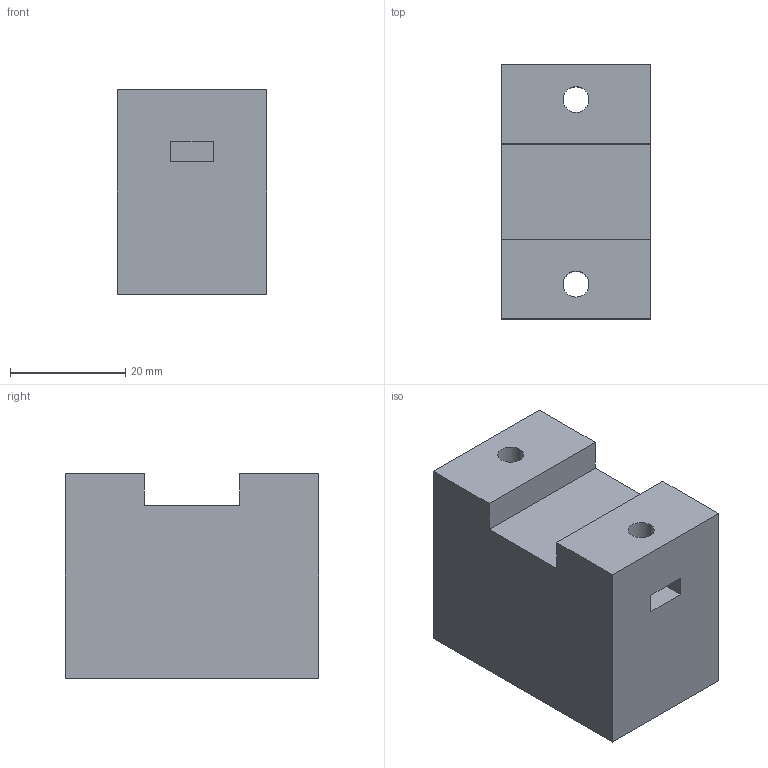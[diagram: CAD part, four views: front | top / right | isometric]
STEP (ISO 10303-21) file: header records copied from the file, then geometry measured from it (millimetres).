
FILE_DESCRIPTION (( 'STEP AP203' ), '1' );
FILE_NAME ('12_riser_fit_coupon.step', '2026-10-22T14:08:27', ( '' ), ( '' ), 'SwSTEP 2.0', 'SolidWorks 2025', '' );
FILE_SCHEMA (( 'CONFIG_CONTROL_DESIGN' ));
Length unit declared in the file: millimetre
Products named in the file (1): 12_riser_fit_coupon
Bounding box: 26 x 44 x 35.5 mm (x, y, z)
Volume: 36696.5 mm3; surface area: 8581.7 mm2
Topology: 1 solids, 1 shells, 28 faces, 72 edges, 48 vertices
Faces by surface type: plane 20, cylinder 8
Entity records: 945 total; most frequent: CARTESIAN_POINT 149, DIRECTION 146, ORIENTED_EDGE 144, EDGE_CURVE 72, LINE 56, VECTOR 56, VERTEX_POINT 48, AXIS2_PLACEMENT_3D 45
